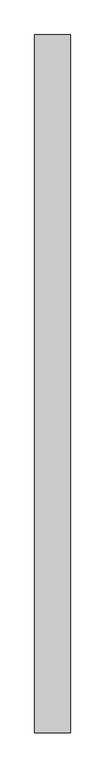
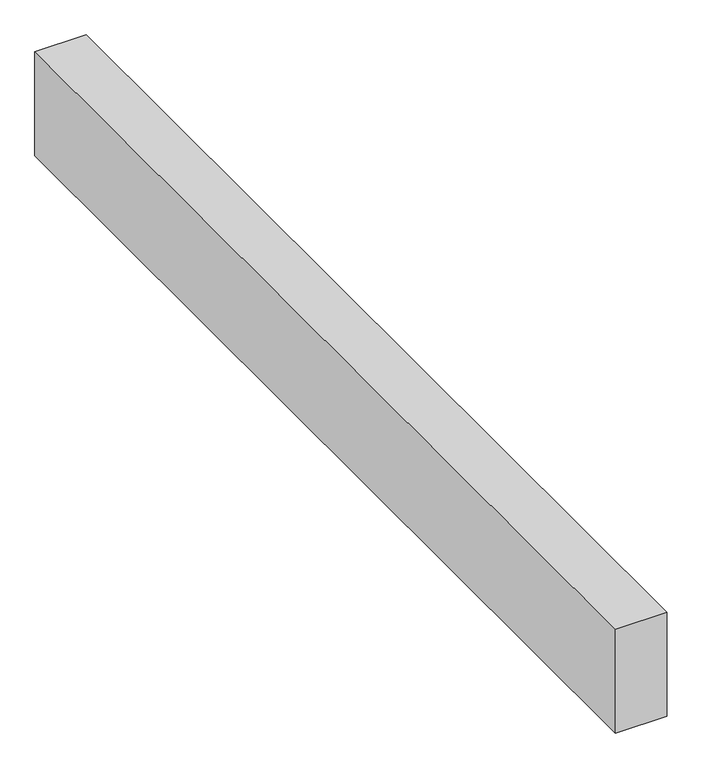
"""IFC4 building model written with IfcOpenShell, lengths in millimetres: proxy geometry."""

from ifc_helpers import new_model, si_unit, frame, origin, place, context, project, spatial, polyline, outline, extrude, source, transform, mapped, element, save


def structural_framing_94598072(model_context):
    return source(origin(), model_context, "Body", "SweptSolid", [
        extrude(outline(polyline([(70.0, -1372.5), (-70.0, -1372.5), (-70.0, 1372.5), (70.0, 1372.5), (70.0, -1372.5)])), frame((0.0, 0.0, -300.0), z_axis=(0.0, 0.0, 1.0), x_axis=(1.0, 0.0, 0.0)), (0.0, 0.0, 1.0), 300.0),
    ])


if __name__ == "__main__":
    model = new_model("IFC4")
    model_context = context("Model", 3, world=origin())
    ifc_project = project(units=[si_unit("LENGTHUNIT", "METRE", prefix="MILLI")], contexts=[model_context])
    site = spatial("IfcSite", under=ifc_project)
    building = spatial("IfcBuilding", under=site)
    placement = place(None, origin())
    structural_framing_shape = structural_framing_94598072(model_context)
    element("IfcBuildingElementProxy", 1, Name="Structural Framing", at=placement, inside=building, context=model_context, shape_type="MappedRepresentation", body=[
        mapped(structural_framing_shape, transform((0.0, 0.0, 0.0), x_axis=(1.0, 0.0, 0.0), y_axis=(0.0, 1.0, 0.0), z_axis=(0.0, 0.0, 1.0))),
    ])
    save(model, "model.ifc")
